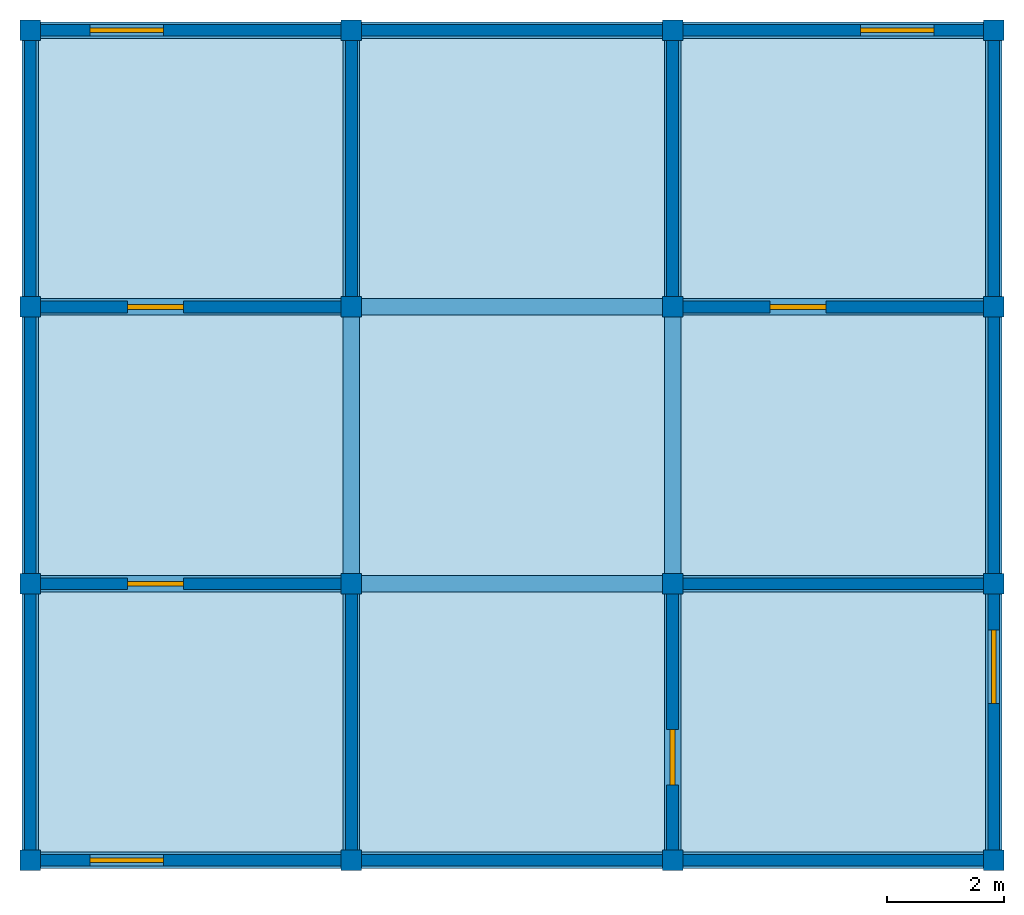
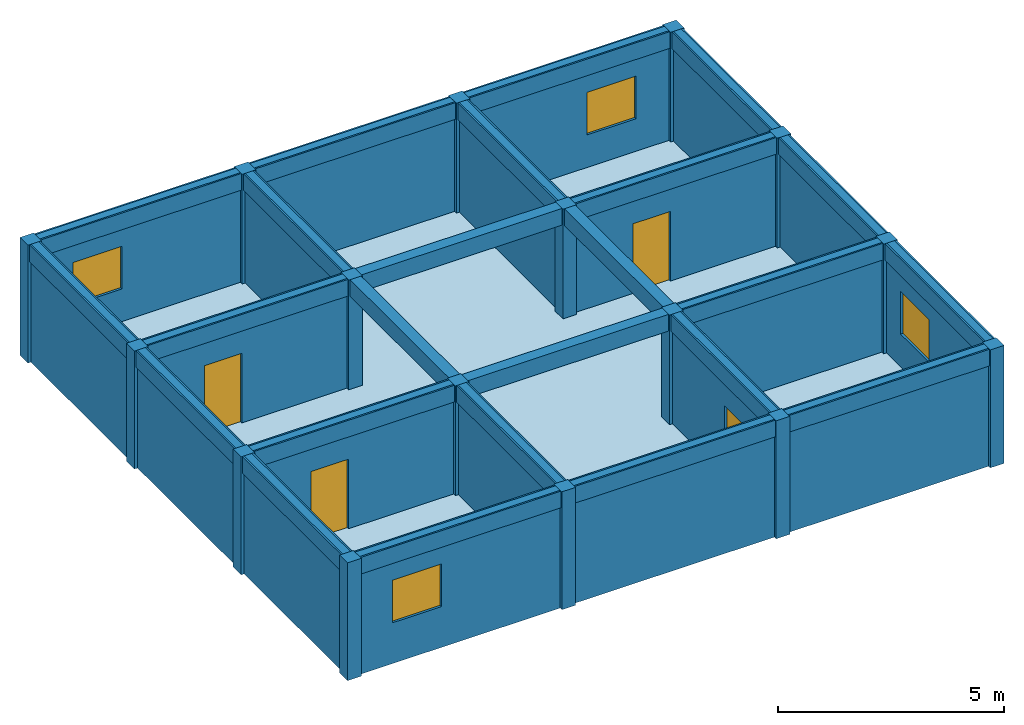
# One storey: 24 beams, 20 walls, 16 columns, 4 doors, 4 windows, 1 slab, 8 openings.
"""IFC4X3 building model written with IfcOpenShell, lengths in metres."""

from ifc_helpers import new_model, si_unit, frame, origin_with_axes, origin_2d, place, context, project, spatial, rectangle, extrude, material, element, fill, save


model = new_model("IFC4X3")

# Units and contexts
model_context = context("Model", 3, precision=1e-05, world=origin_with_axes())
ifc_project = project(units=[si_unit("LENGTHUNIT", "METRE"), si_unit("AREAUNIT", "SQUARE_METRE"), si_unit("VOLUMEUNIT", "CUBIC_METRE")], contexts=[model_context])

# Site, building, storey
site = spatial("IfcSite", under=ifc_project, Name="Antofagasta Parcel", CompositionType="ELEMENT")
building = spatial("IfcBuilding", under=site, Name="Nexo Block", CompositionType="ELEMENT")
storey = spatial("IfcBuildingStorey", under=building, Name="Level 11", CompositionType="ELEMENT", Elevation=31.81)

# Columns
ifc_material_1 = material(Name="Concrete")
column_1_placement = place(None, frame((-8.2, -7.065, 31.808), z_axis=(0.0, 0.0, 1.0), x_axis=(1.0, 0.0, 0.0)))
element("IfcColumn", 1, at=column_1_placement, inside=storey, material=ifc_material_1, Name="Column 11.1", ObjectType="Corner Column", PredefinedType="NOTDEFINED", context=model_context, shape_type="SweptSolid", body=[
    extrude(rectangle(XDim=0.35, YDim=0.35, at=origin_2d()), origin_with_axes(), (0.0, 0.0, 1.0), 3.181),
])
column_2_placement = place(None, frame((-8.2, -2.355, 31.808), z_axis=(0.0, 0.0, 1.0), x_axis=(1.0, 0.0, 0.0)))
element("IfcColumn", 2, at=column_2_placement, inside=storey, material=ifc_material_1, Name="Column 11.2", ObjectType="Structural Column", PredefinedType="COLUMN", context=model_context, shape_type="SweptSolid", body=[
    extrude(rectangle(XDim=0.35, YDim=0.35, at=origin_2d()), origin_with_axes(), (0.0, 0.0, 1.0), 3.181),
])
column_3_placement = place(None, frame((-8.2, 2.355, 31.808), z_axis=(0.0, 0.0, 1.0), x_axis=(1.0, 0.0, 0.0)))
element("IfcColumn", 3, at=column_3_placement, inside=storey, material=ifc_material_1, Name="Column 11.3", ObjectType="Structural Column", PredefinedType="PILASTER", context=model_context, shape_type="SweptSolid", body=[
    extrude(rectangle(XDim=0.35, YDim=0.35, at=origin_2d()), origin_with_axes(), (0.0, 0.0, 1.0), 3.181),
])
column_4_placement = place(None, frame((-8.2, 7.065, 31.808), z_axis=(0.0, 0.0, 1.0), x_axis=(1.0, 0.0, 0.0)))
element("IfcColumn", 4, at=column_4_placement, inside=storey, material=ifc_material_1, Name="Column 11.4", ObjectType="Core Column", PredefinedType="NOTDEFINED", context=model_context, shape_type="SweptSolid", body=[
    extrude(rectangle(XDim=0.35, YDim=0.35, at=origin_2d()), origin_with_axes(), (0.0, 0.0, 1.0), 3.181),
])
column_5_placement = place(None, frame((-2.733, -7.065, 31.808), z_axis=(0.0, 0.0, 1.0), x_axis=(1.0, 0.0, 0.0)))
element("IfcColumn", 5, at=column_5_placement, inside=storey, material=ifc_material_1, Name="Column 11.5", ObjectType="Facade Column", PredefinedType="PILASTER", context=model_context, shape_type="SweptSolid", body=[
    extrude(rectangle(XDim=0.35, YDim=0.35, at=origin_2d()), origin_with_axes(), (0.0, 0.0, 1.0), 3.181),
])
column_6_placement = place(None, frame((-2.733, -2.355, 31.808), z_axis=(0.0, 0.0, 1.0), x_axis=(1.0, 0.0, 0.0)))
element("IfcColumn", 6, at=column_6_placement, inside=storey, material=ifc_material_1, Name="Column 11.6", ObjectType="Core Column", PredefinedType="PILASTER", context=model_context, shape_type="SweptSolid", body=[
    extrude(rectangle(XDim=0.35, YDim=0.35, at=origin_2d()), origin_with_axes(), (0.0, 0.0, 1.0), 3.181),
])
column_7_placement = place(None, frame((-2.733, 2.355, 31.808), z_axis=(0.0, 0.0, 1.0), x_axis=(1.0, 0.0, 0.0)))
element("IfcColumn", 7, at=column_7_placement, inside=storey, material=ifc_material_1, Name="Column 11.7", ObjectType="Facade Column", PredefinedType="NOTDEFINED", context=model_context, shape_type="SweptSolid", body=[
    extrude(rectangle(XDim=0.35, YDim=0.35, at=origin_2d()), origin_with_axes(), (0.0, 0.0, 1.0), 3.181),
])
column_8_placement = place(None, frame((-2.733, 7.065, 31.808), z_axis=(0.0, 0.0, 1.0), x_axis=(1.0, 0.0, 0.0)))
element("IfcColumn", 8, at=column_8_placement, inside=storey, material=ifc_material_1, Name="Column 11.8", ObjectType="Facade Column", PredefinedType="PILASTER", context=model_context, shape_type="SweptSolid", body=[
    extrude(rectangle(XDim=0.35, YDim=0.35, at=origin_2d()), origin_with_axes(), (0.0, 0.0, 1.0), 3.181),
])
column_9_placement = place(None, frame((2.734, -7.065, 31.808), z_axis=(0.0, 0.0, 1.0), x_axis=(1.0, 0.0, 0.0)))
element("IfcColumn", 9, at=column_9_placement, inside=storey, material=ifc_material_1, Name="Column 11.9", ObjectType="Core Column", PredefinedType="COLUMN", context=model_context, shape_type="SweptSolid", body=[
    extrude(rectangle(XDim=0.35, YDim=0.35, at=origin_2d()), origin_with_axes(), (0.0, 0.0, 1.0), 3.181),
])
column_10_placement = place(None, frame((2.734, -2.355, 31.808), z_axis=(0.0, 0.0, 1.0), x_axis=(1.0, 0.0, 0.0)))
element("IfcColumn", 10, at=column_10_placement, inside=storey, material=ifc_material_1, Name="Column 11.10", ObjectType="Corner Column", PredefinedType="NOTDEFINED", context=model_context, shape_type="SweptSolid", body=[
    extrude(rectangle(XDim=0.35, YDim=0.35, at=origin_2d()), origin_with_axes(), (0.0, 0.0, 1.0), 3.181),
])
column_11_placement = place(None, frame((2.734, 2.355, 31.808), z_axis=(0.0, 0.0, 1.0), x_axis=(1.0, 0.0, 0.0)))
element("IfcColumn", 11, at=column_11_placement, inside=storey, material=ifc_material_1, Name="Column 11.11", ObjectType="Facade Column", PredefinedType="NOTDEFINED", context=model_context, shape_type="SweptSolid", body=[
    extrude(rectangle(XDim=0.35, YDim=0.35, at=origin_2d()), origin_with_axes(), (0.0, 0.0, 1.0), 3.181),
])
column_12_placement = place(None, frame((2.734, 7.065, 31.808), z_axis=(0.0, 0.0, 1.0), x_axis=(1.0, 0.0, 0.0)))
element("IfcColumn", 12, at=column_12_placement, inside=storey, material=ifc_material_1, Name="Column 11.12", ObjectType="Structural Column", PredefinedType="PILASTER", context=model_context, shape_type="SweptSolid", body=[
    extrude(rectangle(XDim=0.35, YDim=0.35, at=origin_2d()), origin_with_axes(), (0.0, 0.0, 1.0), 3.181),
])
column_13_placement = place(None, frame((8.201, -7.065, 31.808), z_axis=(0.0, 0.0, 1.0), x_axis=(1.0, 0.0, 0.0)))
element("IfcColumn", 13, at=column_13_placement, inside=storey, material=ifc_material_1, Name="Column 11.13", ObjectType="Facade Column", PredefinedType="PILASTER", context=model_context, shape_type="SweptSolid", body=[
    extrude(rectangle(XDim=0.35, YDim=0.35, at=origin_2d()), origin_with_axes(), (0.0, 0.0, 1.0), 3.181),
])
column_14_placement = place(None, frame((8.201, -2.355, 31.808), z_axis=(0.0, 0.0, 1.0), x_axis=(1.0, 0.0, 0.0)))
element("IfcColumn", 14, at=column_14_placement, inside=storey, material=ifc_material_1, Name="Column 11.14", ObjectType="Facade Column", PredefinedType="NOTDEFINED", context=model_context, shape_type="SweptSolid", body=[
    extrude(rectangle(XDim=0.35, YDim=0.35, at=origin_2d()), origin_with_axes(), (0.0, 0.0, 1.0), 3.181),
])
column_15_placement = place(None, frame((8.201, 2.355, 31.808), z_axis=(0.0, 0.0, 1.0), x_axis=(1.0, 0.0, 0.0)))
element("IfcColumn", 15, at=column_15_placement, inside=storey, material=ifc_material_1, Name="Column 11.15", ObjectType="Facade Column", PredefinedType="USERDEFINED", context=model_context, shape_type="SweptSolid", body=[
    extrude(rectangle(XDim=0.35, YDim=0.35, at=origin_2d()), origin_with_axes(), (0.0, 0.0, 1.0), 3.181),
])
column_16_placement = place(None, frame((8.201, 7.065, 31.808), z_axis=(0.0, 0.0, 1.0), x_axis=(1.0, 0.0, 0.0)))
element("IfcColumn", 16, at=column_16_placement, inside=storey, material=ifc_material_1, Name="Column 11.16", ObjectType="Structural Column", PredefinedType="PILASTER", context=model_context, shape_type="SweptSolid", body=[
    extrude(rectangle(XDim=0.35, YDim=0.35, at=origin_2d()), origin_with_axes(), (0.0, 0.0, 1.0), 3.181),
])

# Beams
ifc_material_2 = material(Name="Timber")
beam_1_placement = place(None, frame((-5.466, -7.065, 34.539), z_axis=(0.0, 0.0, 1.0), x_axis=(1.0, 0.0, 0.0)))
element("IfcBeam", 17, at=beam_1_placement, inside=storey, material=ifc_material_2, Name="Beam 11.1", ObjectType="Transfer Beam", PredefinedType="T_BEAM", context=model_context, shape_type="SweptSolid", body=[
    extrude(rectangle(XDim=5.467, YDim=0.28, at=origin_2d()), origin_with_axes(), (0.0, 0.0, 1.0), 0.45),
])
beam_2_placement = place(None, frame((0.0, -7.065, 34.539), z_axis=(0.0, 0.0, 1.0), x_axis=(1.0, 0.0, 0.0)))
element("IfcBeam", 18, at=beam_2_placement, inside=storey, material=ifc_material_2, Name="Beam 11.2", ObjectType="Transfer Beam", PredefinedType="BEAM", context=model_context, shape_type="SweptSolid", body=[
    extrude(rectangle(XDim=5.467, YDim=0.28, at=origin_2d()), origin_with_axes(), (0.0, 0.0, 1.0), 0.45),
])
beam_3_placement = place(None, frame((5.468, -7.065, 34.539), z_axis=(0.0, 0.0, 1.0), x_axis=(1.0, 0.0, 0.0)))
element("IfcBeam", 19, at=beam_3_placement, inside=storey, material=ifc_material_2, Name="Beam 11.3", ObjectType="Rafter Beam", PredefinedType="LINTEL", context=model_context, shape_type="SweptSolid", body=[
    extrude(rectangle(XDim=5.467, YDim=0.28, at=origin_2d()), origin_with_axes(), (0.0, 0.0, 1.0), 0.45),
])
beam_4_placement = place(None, frame((-5.466, -2.355, 34.539), z_axis=(0.0, 0.0, 1.0), x_axis=(1.0, 0.0, 0.0)))
element("IfcBeam", 20, at=beam_4_placement, inside=storey, material=ifc_material_2, Name="Beam 11.4", ObjectType="Secondary Beam", PredefinedType="HOLLOWCORE", context=model_context, shape_type="SweptSolid", body=[
    extrude(rectangle(XDim=5.467, YDim=0.28, at=origin_2d()), origin_with_axes(), (0.0, 0.0, 1.0), 0.45),
])
beam_5_placement = place(None, frame((0.0, -2.355, 34.539), z_axis=(0.0, 0.0, 1.0), x_axis=(1.0, 0.0, 0.0)))
element("IfcBeam", 21, at=beam_5_placement, inside=storey, material=ifc_material_2, Name="Beam 11.5", ObjectType="Ridge Beam", PredefinedType="LINTEL", context=model_context, shape_type="SweptSolid", body=[
    extrude(rectangle(XDim=5.467, YDim=0.28, at=origin_2d()), origin_with_axes(), (0.0, 0.0, 1.0), 0.45),
])
beam_6_placement = place(None, frame((5.468, -2.355, 34.539), z_axis=(0.0, 0.0, 1.0), x_axis=(1.0, 0.0, 0.0)))
element("IfcBeam", 22, at=beam_6_placement, inside=storey, material=ifc_material_2, Name="Beam 11.6", ObjectType="Transfer Beam", PredefinedType="LINTEL", context=model_context, shape_type="SweptSolid", body=[
    extrude(rectangle(XDim=5.467, YDim=0.28, at=origin_2d()), origin_with_axes(), (0.0, 0.0, 1.0), 0.45),
])
beam_7_placement = place(None, frame((-5.466, 2.355, 34.539), z_axis=(0.0, 0.0, 1.0), x_axis=(1.0, 0.0, 0.0)))
element("IfcBeam", 23, at=beam_7_placement, inside=storey, material=ifc_material_2, Name="Beam 11.7", ObjectType="Transfer Beam", PredefinedType="JOIST", context=model_context, shape_type="SweptSolid", body=[
    extrude(rectangle(XDim=5.467, YDim=0.28, at=origin_2d()), origin_with_axes(), (0.0, 0.0, 1.0), 0.45),
])
beam_8_placement = place(None, frame((0.0, 2.355, 34.539), z_axis=(0.0, 0.0, 1.0), x_axis=(1.0, 0.0, 0.0)))
element("IfcBeam", 24, at=beam_8_placement, inside=storey, material=ifc_material_2, Name="Beam 11.8", ObjectType="Rafter Beam", PredefinedType="LINTEL", context=model_context, shape_type="SweptSolid", body=[
    extrude(rectangle(XDim=5.467, YDim=0.28, at=origin_2d()), origin_with_axes(), (0.0, 0.0, 1.0), 0.45),
])
beam_9_placement = place(None, frame((5.468, 2.355, 34.539), z_axis=(0.0, 0.0, 1.0), x_axis=(1.0, 0.0, 0.0)))
element("IfcBeam", 25, at=beam_9_placement, inside=storey, material=ifc_material_2, Name="Beam 11.9", ObjectType="Primary Beam", PredefinedType="SPANDREL", context=model_context, shape_type="SweptSolid", body=[
    extrude(rectangle(XDim=5.467, YDim=0.28, at=origin_2d()), origin_with_axes(), (0.0, 0.0, 1.0), 0.45),
])
beam_10_placement = place(None, frame((-5.466, 7.065, 34.539), z_axis=(0.0, 0.0, 1.0), x_axis=(1.0, 0.0, 0.0)))
element("IfcBeam", 26, at=beam_10_placement, inside=storey, material=ifc_material_2, Name="Beam 11.10", ObjectType="Rafter Beam", PredefinedType="NOTDEFINED", context=model_context, shape_type="SweptSolid", body=[
    extrude(rectangle(XDim=5.467, YDim=0.28, at=origin_2d()), origin_with_axes(), (0.0, 0.0, 1.0), 0.45),
])
beam_11_placement = place(None, frame((0.0, 7.065, 34.539), z_axis=(0.0, 0.0, 1.0), x_axis=(1.0, 0.0, 0.0)))
element("IfcBeam", 27, at=beam_11_placement, inside=storey, material=ifc_material_2, Name="Beam 11.11", ObjectType="Primary Beam", PredefinedType="T_BEAM", context=model_context, shape_type="SweptSolid", body=[
    extrude(rectangle(XDim=5.467, YDim=0.28, at=origin_2d()), origin_with_axes(), (0.0, 0.0, 1.0), 0.45),
])
beam_12_placement = place(None, frame((5.468, 7.065, 34.539), z_axis=(0.0, 0.0, 1.0), x_axis=(1.0, 0.0, 0.0)))
element("IfcBeam", 28, at=beam_12_placement, inside=storey, material=ifc_material_2, Name="Beam 11.12", ObjectType="Secondary Beam", PredefinedType="SPANDREL", context=model_context, shape_type="SweptSolid", body=[
    extrude(rectangle(XDim=5.467, YDim=0.28, at=origin_2d()), origin_with_axes(), (0.0, 0.0, 1.0), 0.45),
])
beam_13_placement = place(None, frame((-8.2, -4.71, 34.539), z_axis=(0.0, 0.0, 1.0), x_axis=(0.0, 1.0, 0.0)))
element("IfcBeam", 29, at=beam_13_placement, inside=storey, material=ifc_material_2, Name="Beam 11.13", ObjectType="Primary Beam", PredefinedType="NOTDEFINED", context=model_context, shape_type="SweptSolid", body=[
    extrude(rectangle(XDim=4.71, YDim=0.28, at=origin_2d()), origin_with_axes(), (0.0, 0.0, 1.0), 0.45),
])
beam_14_placement = place(None, frame((-8.2, 0.0, 34.539), z_axis=(0.0, 0.0, 1.0), x_axis=(0.0, 1.0, 0.0)))
element("IfcBeam", 30, at=beam_14_placement, inside=storey, material=ifc_material_2, Name="Beam 11.14", ObjectType="Transfer Beam", PredefinedType="NOTDEFINED", context=model_context, shape_type="SweptSolid", body=[
    extrude(rectangle(XDim=4.71, YDim=0.28, at=origin_2d()), origin_with_axes(), (0.0, 0.0, 1.0), 0.45),
])
beam_15_placement = place(None, frame((-8.2, 4.71, 34.539), z_axis=(0.0, 0.0, 1.0), x_axis=(0.0, 1.0, 0.0)))
element("IfcBeam", 31, at=beam_15_placement, inside=storey, material=ifc_material_2, Name="Beam 11.15", ObjectType="Secondary Beam", PredefinedType="USERDEFINED", context=model_context, shape_type="SweptSolid", body=[
    extrude(rectangle(XDim=4.71, YDim=0.28, at=origin_2d()), origin_with_axes(), (0.0, 0.0, 1.0), 0.45),
])
beam_16_placement = place(None, frame((-2.733, -4.71, 34.539), z_axis=(0.0, 0.0, 1.0), x_axis=(0.0, 1.0, 0.0)))
element("IfcBeam", 32, at=beam_16_placement, inside=storey, material=ifc_material_2, Name="Beam 11.16", ObjectType="Primary Beam", PredefinedType="JOIST", context=model_context, shape_type="SweptSolid", body=[
    extrude(rectangle(XDim=4.71, YDim=0.28, at=origin_2d()), origin_with_axes(), (0.0, 0.0, 1.0), 0.45),
])
beam_17_placement = place(None, frame((-2.733, 0.0, 34.539), z_axis=(0.0, 0.0, 1.0), x_axis=(0.0, 1.0, 0.0)))
element("IfcBeam", 33, at=beam_17_placement, inside=storey, material=ifc_material_2, Name="Beam 11.17", ObjectType="Ridge Beam", PredefinedType="SPANDREL", context=model_context, shape_type="SweptSolid", body=[
    extrude(rectangle(XDim=4.71, YDim=0.28, at=origin_2d()), origin_with_axes(), (0.0, 0.0, 1.0), 0.45),
])
beam_18_placement = place(None, frame((-2.733, 4.71, 34.539), z_axis=(0.0, 0.0, 1.0), x_axis=(0.0, 1.0, 0.0)))
element("IfcBeam", 34, at=beam_18_placement, inside=storey, material=ifc_material_2, Name="Beam 11.18", ObjectType="Ridge Beam", PredefinedType="T_BEAM", context=model_context, shape_type="SweptSolid", body=[
    extrude(rectangle(XDim=4.71, YDim=0.28, at=origin_2d()), origin_with_axes(), (0.0, 0.0, 1.0), 0.45),
])
beam_19_placement = place(None, frame((2.734, -4.71, 34.539), z_axis=(0.0, 0.0, 1.0), x_axis=(0.0, 1.0, 0.0)))
element("IfcBeam", 35, at=beam_19_placement, inside=storey, material=ifc_material_2, Name="Beam 11.19", ObjectType="Rafter Beam", PredefinedType="LINTEL", context=model_context, shape_type="SweptSolid", body=[
    extrude(rectangle(XDim=4.71, YDim=0.28, at=origin_2d()), origin_with_axes(), (0.0, 0.0, 1.0), 0.45),
])
beam_20_placement = place(None, frame((2.734, 0.0, 34.539), z_axis=(0.0, 0.0, 1.0), x_axis=(0.0, 1.0, 0.0)))
element("IfcBeam", 36, at=beam_20_placement, inside=storey, material=ifc_material_2, Name="Beam 11.20", ObjectType="Rafter Beam", PredefinedType="BEAM", context=model_context, shape_type="SweptSolid", body=[
    extrude(rectangle(XDim=4.71, YDim=0.28, at=origin_2d()), origin_with_axes(), (0.0, 0.0, 1.0), 0.45),
])
beam_21_placement = place(None, frame((2.734, 4.71, 34.539), z_axis=(0.0, 0.0, 1.0), x_axis=(0.0, 1.0, 0.0)))
element("IfcBeam", 37, at=beam_21_placement, inside=storey, material=ifc_material_2, Name="Beam 11.21", ObjectType="Transfer Beam", PredefinedType="BEAM", context=model_context, shape_type="SweptSolid", body=[
    extrude(rectangle(XDim=4.71, YDim=0.28, at=origin_2d()), origin_with_axes(), (0.0, 0.0, 1.0), 0.45),
])
beam_22_placement = place(None, frame((8.201, -4.71, 34.539), z_axis=(0.0, 0.0, 1.0), x_axis=(0.0, 1.0, 0.0)))
element("IfcBeam", 38, at=beam_22_placement, inside=storey, material=ifc_material_2, Name="Beam 11.22", ObjectType="Secondary Beam", PredefinedType="NOTDEFINED", context=model_context, shape_type="SweptSolid", body=[
    extrude(rectangle(XDim=4.71, YDim=0.28, at=origin_2d()), origin_with_axes(), (0.0, 0.0, 1.0), 0.45),
])
beam_23_placement = place(None, frame((8.201, 0.0, 34.539), z_axis=(0.0, 0.0, 1.0), x_axis=(0.0, 1.0, 0.0)))
element("IfcBeam", 39, at=beam_23_placement, inside=storey, material=ifc_material_2, Name="Beam 11.23", ObjectType="Ridge Beam", PredefinedType="SPANDREL", context=model_context, shape_type="SweptSolid", body=[
    extrude(rectangle(XDim=4.71, YDim=0.28, at=origin_2d()), origin_with_axes(), (0.0, 0.0, 1.0), 0.45),
])
beam_24_placement = place(None, frame((8.201, 4.71, 34.539), z_axis=(0.0, 0.0, 1.0), x_axis=(0.0, 1.0, 0.0)))
element("IfcBeam", 40, at=beam_24_placement, inside=storey, material=ifc_material_2, Name="Beam 11.24", ObjectType="Rafter Beam", PredefinedType="BEAM", context=model_context, shape_type="SweptSolid", body=[
    extrude(rectangle(XDim=4.71, YDim=0.28, at=origin_2d()), origin_with_axes(), (0.0, 0.0, 1.0), 0.45),
])

# Slab
slab_placement = place(None, frame((0.0, 0.0, 31.81), z_axis=(0.0, 0.0, 1.0), x_axis=(1.0, 0.0, 0.0)))
element("IfcSlab", 41, at=slab_placement, inside=storey, material=ifc_material_1, Name="Slab 11", ObjectType="Floor Slab", PredefinedType="FLOOR", context=model_context, shape_type="SweptSolid", body=[
    extrude(rectangle(XDim=16.4, YDim=14.13, at=origin_2d()), origin_with_axes(), (0.0, 0.0, 1.0), 0.22),
])

# Wall, opening, door
wall_1_placement = place(None, frame((-5.466, -2.355, 31.808), z_axis=(0.0, 0.0, 1.0), x_axis=(1.0, 0.0, 0.0)))
wall_1 = element("IfcWall", 42, at=wall_1_placement, inside=storey, material=ifc_material_1, Name="Wall 11.1", ObjectType="Corridor Partition", PredefinedType="SOLIDWALL", context=model_context, shape_type="SweptSolid", body=[
    extrude(rectangle(XDim=5.467, YDim=0.198651, at=origin_2d()), origin_with_axes(), (0.0, 0.0, 1.0), 3.181),
])
opening_1_placement = place(None, frame((-6.066, -2.355, 31.808), z_axis=(0.0, 0.0, 1.0), x_axis=(1.0, 0.0, 0.0)))
opening_1 = element("IfcOpeningElement", 43, at=opening_1_placement, cuts=wall_1, Name="Door opening 11.1", ObjectType="Door Opening", PredefinedType="OPENING", context=model_context, shape_type="SweptSolid", body=[
    extrude(rectangle(XDim=0.95, YDim=0.278651, at=origin_2d()), origin_with_axes(), (0.0, 0.0, 1.0), 2.1),
])
door_1_placement = place(None, frame((-6.066, -2.355, 31.808), z_axis=(0.0, 0.0, 1.0), x_axis=(1.0, 0.0, 0.0)))
door_1 = element("IfcDoor", 44, at=door_1_placement, inside=storey, Name="Door 11.1", ObjectType="Entry Door", OverallHeight=2.1, OverallWidth=0.95, context=model_context, shape_type="SweptSolid", body=[
    extrude(rectangle(XDim=0.95, YDim=0.08, at=origin_2d()), origin_with_axes(), (0.0, 0.0, 1.0), 2.1),
])
fill(opening_1, door_1)

# Wall
wall_2_placement = place(None, frame((-2.7325, -4.71, 31.808), z_axis=(0.0, 0.0, 1.0), x_axis=(0.0, 1.0, 0.0)))
element("IfcWall", 45, at=wall_2_placement, inside=storey, material=ifc_material_1, Name="Wall 11.2", ObjectType="Corridor Partition", PredefinedType="POLYGONAL", context=model_context, shape_type="SweptSolid", body=[
    extrude(rectangle(XDim=4.71, YDim=0.198651, at=origin_2d()), origin_with_axes(), (0.0, 0.0, 1.0), 3.181),
])

# Wall, opening, window
ifc_material_3 = material(Name="CLT")
wall_3_placement = place(None, frame((-5.466, -7.065, 31.808), z_axis=(0.0, 0.0, 1.0), x_axis=(1.0, 0.0, 0.0)))
wall_3 = element("IfcWall", 46, at=wall_3_placement, inside=storey, material=ifc_material_3, Name="Wall 11.3", ObjectType="Exterior Wall", PredefinedType="STANDARD", context=model_context, shape_type="SweptSolid", body=[
    extrude(rectangle(XDim=5.467, YDim=0.198651, at=origin_2d()), origin_with_axes(), (0.0, 0.0, 1.0), 3.181),
])
opening_2_placement = place(None, frame((-6.559, -7.065, 32.908), z_axis=(0.0, 0.0, 1.0), x_axis=(1.0, 0.0, 0.0)))
opening_2 = element("IfcOpeningElement", 47, at=opening_2_placement, cuts=wall_3, Name="Window opening 11.2", ObjectType="Window Opening", PredefinedType="OPENING", context=model_context, shape_type="SweptSolid", body=[
    extrude(rectangle(XDim=1.25, YDim=0.278651, at=origin_2d()), origin_with_axes(), (0.0, 0.0, 1.0), 1.15),
])
window_1_placement = place(None, frame((-6.559, -7.065, 32.908), z_axis=(0.0, 0.0, 1.0), x_axis=(1.0, 0.0, 0.0)))
window_1 = element("IfcWindow", 48, at=window_1_placement, inside=storey, Name="Window 11.2", ObjectType="Fixed Window", OverallHeight=1.15, OverallWidth=1.25, context=model_context, shape_type="SweptSolid", body=[
    extrude(rectangle(XDim=1.25, YDim=0.08, at=origin_2d()), origin_with_axes(), (0.0, 0.0, 1.0), 1.15),
])
fill(opening_2, window_1)

# Wall
wall_4_placement = place(None, frame((-8.1995, -4.71, 31.808), z_axis=(0.0, 0.0, 1.0), x_axis=(0.0, 1.0, 0.0)))
element("IfcWall", 49, at=wall_4_placement, inside=storey, material=ifc_material_1, Name="Wall 11.4", ObjectType="Exterior Wall", PredefinedType="PLUMBINGWALL", context=model_context, shape_type="SweptSolid", body=[
    extrude(rectangle(XDim=4.71, YDim=0.198651, at=origin_2d()), origin_with_axes(), (0.0, 0.0, 1.0), 3.181),
])

# Wall, opening, door
wall_5_placement = place(None, frame((2.7335, -4.71, 31.808), z_axis=(0.0, 0.0, 1.0), x_axis=(0.0, 1.0, 0.0)))
wall_5 = element("IfcWall", 50, at=wall_5_placement, inside=storey, material=ifc_material_3, Name="Wall 11.5", ObjectType="Corridor Partition", PredefinedType="PARTITIONING", context=model_context, shape_type="SweptSolid", body=[
    extrude(rectangle(XDim=4.71, YDim=0.198651, at=origin_2d()), origin_with_axes(), (0.0, 0.0, 1.0), 3.181),
])
opening_3_placement = place(None, frame((2.733, -5.31, 31.808), z_axis=(0.0, 0.0, 1.0), x_axis=(0.0, 1.0, 0.0)))
opening_3 = element("IfcOpeningElement", 51, at=opening_3_placement, cuts=wall_5, Name="Door opening 11.3", ObjectType="Door Opening", PredefinedType="OPENING", context=model_context, shape_type="SweptSolid", body=[
    extrude(rectangle(XDim=0.95, YDim=0.278651, at=origin_2d()), origin_with_axes(), (0.0, 0.0, 1.0), 2.1),
])
door_2_placement = place(None, frame((2.733, -5.31, 31.808), z_axis=(0.0, 0.0, 1.0), x_axis=(0.0, 1.0, 0.0)))
door_2 = element("IfcDoor", 52, at=door_2_placement, inside=storey, Name="Door 11.3", ObjectType="Interior Door", OverallHeight=2.1, OverallWidth=0.95, context=model_context, shape_type="SweptSolid", body=[
    extrude(rectangle(XDim=0.95, YDim=0.08, at=origin_2d()), origin_with_axes(), (0.0, 0.0, 1.0), 2.1),
])
fill(opening_3, door_2)

# Walls
ifc_material_4 = material(Name="Brick")
wall_6_placement = place(None, frame((0.0, -7.065, 31.808), z_axis=(0.0, 0.0, 1.0), x_axis=(1.0, 0.0, 0.0)))
element("IfcWall", 53, at=wall_6_placement, inside=storey, material=ifc_material_4, Name="Wall 11.6", ObjectType="Exterior Wall", PredefinedType="MOVABLE", context=model_context, shape_type="SweptSolid", body=[
    extrude(rectangle(XDim=5.467, YDim=0.198651, at=origin_2d()), origin_with_axes(), (0.0, 0.0, 1.0), 3.181),
])
wall_7_placement = place(None, frame((5.467, -2.355, 31.808), z_axis=(0.0, 0.0, 1.0), x_axis=(1.0, 0.0, 0.0)))
element("IfcWall", 54, at=wall_7_placement, inside=storey, material=ifc_material_1, Name="Wall 11.7", ObjectType="Corridor Partition", PredefinedType="ELEMENTEDWALL", context=model_context, shape_type="SweptSolid", body=[
    extrude(rectangle(XDim=5.467, YDim=0.198651, at=origin_2d()), origin_with_axes(), (0.0, 0.0, 1.0), 3.181),
])

# Wall, opening, window
wall_8_placement = place(None, frame((8.2005, -4.71, 31.808), z_axis=(0.0, 0.0, 1.0), x_axis=(0.0, 1.0, 0.0)))
wall_8 = element("IfcWall", 55, at=wall_8_placement, inside=storey, material=ifc_material_3, Name="Wall 11.8", ObjectType="Exterior Wall", PredefinedType="ELEMENTEDWALL", context=model_context, shape_type="SweptSolid", body=[
    extrude(rectangle(XDim=4.71, YDim=0.198651, at=origin_2d()), origin_with_axes(), (0.0, 0.0, 1.0), 3.181),
])
opening_4_placement = place(None, frame((8.2, -3.768, 32.908), z_axis=(0.0, 0.0, 1.0), x_axis=(0.0, 1.0, 0.0)))
opening_4 = element("IfcOpeningElement", 56, at=opening_4_placement, cuts=wall_8, Name="Window opening 11.4", ObjectType="Window Opening", PredefinedType="OPENING", context=model_context, shape_type="SweptSolid", body=[
    extrude(rectangle(XDim=1.25, YDim=0.278651, at=origin_2d()), origin_with_axes(), (0.0, 0.0, 1.0), 1.15),
])
window_2_placement = place(None, frame((8.2, -3.768, 32.908), z_axis=(0.0, 0.0, 1.0), x_axis=(0.0, 1.0, 0.0)))
window_2 = element("IfcWindow", 57, at=window_2_placement, inside=storey, Name="Window 11.4", ObjectType="Louvre Window", OverallHeight=1.15, OverallWidth=1.25, context=model_context, shape_type="SweptSolid", body=[
    extrude(rectangle(XDim=1.25, YDim=0.08, at=origin_2d()), origin_with_axes(), (0.0, 0.0, 1.0), 1.15),
])
fill(opening_4, window_2)

# Wall
wall_9_placement = place(None, frame((5.467, -7.065, 31.808), z_axis=(0.0, 0.0, 1.0), x_axis=(1.0, 0.0, 0.0)))
element("IfcWall", 58, at=wall_9_placement, inside=storey, material=ifc_material_3, Name="Wall 11.9", ObjectType="Exterior Wall", PredefinedType="NOTDEFINED", context=model_context, shape_type="SweptSolid", body=[
    extrude(rectangle(XDim=5.467, YDim=0.198651, at=origin_2d()), origin_with_axes(), (0.0, 0.0, 1.0), 3.181),
])

# Wall, opening, door
wall_10_placement = place(None, frame((-5.466, 2.355, 31.808), z_axis=(0.0, 0.0, 1.0), x_axis=(1.0, 0.0, 0.0)))
wall_10 = element("IfcWall", 59, at=wall_10_placement, inside=storey, material=ifc_material_1, Name="Wall 11.10", ObjectType="Corridor Partition", PredefinedType="SOLIDWALL", context=model_context, shape_type="SweptSolid", body=[
    extrude(rectangle(XDim=5.467, YDim=0.198651, at=origin_2d()), origin_with_axes(), (0.0, 0.0, 1.0), 3.181),
])
opening_5_placement = place(None, frame((-6.066, 2.355, 31.808), z_axis=(0.0, 0.0, 1.0), x_axis=(1.0, 0.0, 0.0)))
opening_5 = element("IfcOpeningElement", 60, at=opening_5_placement, cuts=wall_10, Name="Door opening 11.5", ObjectType="Door Opening", PredefinedType="OPENING", context=model_context, shape_type="SweptSolid", body=[
    extrude(rectangle(XDim=0.95, YDim=0.278651, at=origin_2d()), origin_with_axes(), (0.0, 0.0, 1.0), 2.1),
])
door_3_placement = place(None, frame((-6.066, 2.355, 31.808), z_axis=(0.0, 0.0, 1.0), x_axis=(1.0, 0.0, 0.0)))
door_3 = element("IfcDoor", 61, at=door_3_placement, inside=storey, Name="Door 11.5", ObjectType="Interior Door", OverallHeight=2.1, OverallWidth=0.95, context=model_context, shape_type="SweptSolid", body=[
    extrude(rectangle(XDim=0.95, YDim=0.08, at=origin_2d()), origin_with_axes(), (0.0, 0.0, 1.0), 2.1),
])
fill(opening_5, door_3)

# Wall
wall_11_placement = place(None, frame((-8.1995, 0.0, 31.808), z_axis=(0.0, 0.0, 1.0), x_axis=(0.0, 1.0, 0.0)))
element("IfcWall", 62, at=wall_11_placement, inside=storey, material=ifc_material_4, Name="Wall 11.11", ObjectType="Exterior Wall", PredefinedType="SHEAR", context=model_context, shape_type="SweptSolid", body=[
    extrude(rectangle(XDim=4.71, YDim=0.198651, at=origin_2d()), origin_with_axes(), (0.0, 0.0, 1.0), 3.181),
])

# Wall, opening, door
wall_12_placement = place(None, frame((5.467, 2.355, 31.808), z_axis=(0.0, 0.0, 1.0), x_axis=(1.0, 0.0, 0.0)))
wall_12 = element("IfcWall", 63, at=wall_12_placement, inside=storey, material=ifc_material_4, Name="Wall 11.12", ObjectType="Corridor Partition", PredefinedType="POLYGONAL", context=model_context, shape_type="SweptSolid", body=[
    extrude(rectangle(XDim=5.467, YDim=0.198651, at=origin_2d()), origin_with_axes(), (0.0, 0.0, 1.0), 3.181),
])
opening_6_placement = place(None, frame((4.867, 2.355, 31.808), z_axis=(0.0, 0.0, 1.0), x_axis=(1.0, 0.0, 0.0)))
opening_6 = element("IfcOpeningElement", 64, at=opening_6_placement, cuts=wall_12, Name="Door opening 11.7", ObjectType="Door Opening", PredefinedType="OPENING", context=model_context, shape_type="SweptSolid", body=[
    extrude(rectangle(XDim=0.95, YDim=0.278651, at=origin_2d()), origin_with_axes(), (0.0, 0.0, 1.0), 2.1),
])
door_4_placement = place(None, frame((4.867, 2.355, 31.808), z_axis=(0.0, 0.0, 1.0), x_axis=(1.0, 0.0, 0.0)))
door_4 = element("IfcDoor", 65, at=door_4_placement, inside=storey, Name="Door 11.7", ObjectType="Entry Door", OverallHeight=2.1, OverallWidth=0.95, context=model_context, shape_type="SweptSolid", body=[
    extrude(rectangle(XDim=0.95, YDim=0.08, at=origin_2d()), origin_with_axes(), (0.0, 0.0, 1.0), 2.1),
])
fill(opening_6, door_4)

# Wall
wall_13_placement = place(None, frame((8.2005, 0.0, 31.808), z_axis=(0.0, 0.0, 1.0), x_axis=(0.0, 1.0, 0.0)))
element("IfcWall", 66, at=wall_13_placement, inside=storey, material=ifc_material_3, Name="Wall 11.13", ObjectType="Exterior Wall", PredefinedType="SHEAR", context=model_context, shape_type="SweptSolid", body=[
    extrude(rectangle(XDim=4.71, YDim=0.198651, at=origin_2d()), origin_with_axes(), (0.0, 0.0, 1.0), 3.181),
])

# Wall, opening, window
wall_14_placement = place(None, frame((-5.466, 7.065, 31.808), z_axis=(0.0, 0.0, 1.0), x_axis=(1.0, 0.0, 0.0)))
wall_14 = element("IfcWall", 67, at=wall_14_placement, inside=storey, material=ifc_material_3, Name="Wall 11.14", ObjectType="Exterior Wall", PredefinedType="USERDEFINED", context=model_context, shape_type="SweptSolid", body=[
    extrude(rectangle(XDim=5.467, YDim=0.198651, at=origin_2d()), origin_with_axes(), (0.0, 0.0, 1.0), 3.181),
])
opening_7_placement = place(None, frame((-6.559, 7.065, 32.908), z_axis=(0.0, 0.0, 1.0), x_axis=(1.0, 0.0, 0.0)))
opening_7 = element("IfcOpeningElement", 68, at=opening_7_placement, cuts=wall_14, Name="Window opening 11.6", ObjectType="Window Opening", PredefinedType="OPENING", context=model_context, shape_type="SweptSolid", body=[
    extrude(rectangle(XDim=1.25, YDim=0.278651, at=origin_2d()), origin_with_axes(), (0.0, 0.0, 1.0), 1.15),
])
window_3_placement = place(None, frame((-6.559, 7.065, 32.908), z_axis=(0.0, 0.0, 1.0), x_axis=(1.0, 0.0, 0.0)))
window_3 = element("IfcWindow", 69, at=window_3_placement, inside=storey, Name="Window 11.6", ObjectType="Sliding Window", OverallHeight=1.15, OverallWidth=1.25, context=model_context, shape_type="SweptSolid", body=[
    extrude(rectangle(XDim=1.25, YDim=0.08, at=origin_2d()), origin_with_axes(), (0.0, 0.0, 1.0), 1.15),
])
fill(opening_7, window_3)

# Walls
ifc_material_5 = material(Name="Gypsum")
wall_15_placement = place(None, frame((-2.7325, 4.71, 31.808), z_axis=(0.0, 0.0, 1.0), x_axis=(0.0, 1.0, 0.0)))
element("IfcWall", 70, at=wall_15_placement, inside=storey, material=ifc_material_5, Name="Wall 11.15", ObjectType="Corridor Partition", PredefinedType="POLYGONAL", context=model_context, shape_type="SweptSolid", body=[
    extrude(rectangle(XDim=4.71, YDim=0.198651, at=origin_2d()), origin_with_axes(), (0.0, 0.0, 1.0), 3.181),
])
wall_16_placement = place(None, frame((-8.1995, 4.71, 31.808), z_axis=(0.0, 0.0, 1.0), x_axis=(0.0, 1.0, 0.0)))
element("IfcWall", 71, at=wall_16_placement, inside=storey, material=ifc_material_3, Name="Wall 11.16", ObjectType="Exterior Wall", PredefinedType="POLYGONAL", context=model_context, shape_type="SweptSolid", body=[
    extrude(rectangle(XDim=4.71, YDim=0.198651, at=origin_2d()), origin_with_axes(), (0.0, 0.0, 1.0), 3.181),
])
wall_17_placement = place(None, frame((0.0, 7.065, 31.808), z_axis=(0.0, 0.0, 1.0), x_axis=(1.0, 0.0, 0.0)))
element("IfcWall", 72, at=wall_17_placement, inside=storey, material=ifc_material_3, Name="Wall 11.17", ObjectType="Exterior Wall", PredefinedType="PARAPET", context=model_context, shape_type="SweptSolid", body=[
    extrude(rectangle(XDim=5.467, YDim=0.198651, at=origin_2d()), origin_with_axes(), (0.0, 0.0, 1.0), 3.181),
])
wall_18_placement = place(None, frame((2.7335, 4.71, 31.808), z_axis=(0.0, 0.0, 1.0), x_axis=(0.0, 1.0, 0.0)))
element("IfcWall", 73, at=wall_18_placement, inside=storey, material=ifc_material_4, Name="Wall 11.18", ObjectType="Corridor Partition", PredefinedType="SHEAR", context=model_context, shape_type="SweptSolid", body=[
    extrude(rectangle(XDim=4.71, YDim=0.198651, at=origin_2d()), origin_with_axes(), (0.0, 0.0, 1.0), 3.181),
])

# Wall, opening, window
wall_19_placement = place(None, frame((5.467, 7.065, 31.808), z_axis=(0.0, 0.0, 1.0), x_axis=(1.0, 0.0, 0.0)))
wall_19 = element("IfcWall", 74, at=wall_19_placement, inside=storey, material=ifc_material_4, Name="Wall 11.19", ObjectType="Exterior Wall", PredefinedType="NOTDEFINED", context=model_context, shape_type="SweptSolid", body=[
    extrude(rectangle(XDim=5.467, YDim=0.198651, at=origin_2d()), origin_with_axes(), (0.0, 0.0, 1.0), 3.181),
])
opening_8_placement = place(None, frame((6.56, 7.065, 32.908), z_axis=(0.0, 0.0, 1.0), x_axis=(1.0, 0.0, 0.0)))
opening_8 = element("IfcOpeningElement", 75, at=opening_8_placement, cuts=wall_19, Name="Window opening 11.8", ObjectType="Window Opening", PredefinedType="OPENING", context=model_context, shape_type="SweptSolid", body=[
    extrude(rectangle(XDim=1.25, YDim=0.278651, at=origin_2d()), origin_with_axes(), (0.0, 0.0, 1.0), 1.15),
])
window_4_placement = place(None, frame((6.56, 7.065, 32.908), z_axis=(0.0, 0.0, 1.0), x_axis=(1.0, 0.0, 0.0)))
window_4 = element("IfcWindow", 76, at=window_4_placement, inside=storey, Name="Window 11.8", ObjectType="Curtain Window", OverallHeight=1.15, OverallWidth=1.25, context=model_context, shape_type="SweptSolid", body=[
    extrude(rectangle(XDim=1.25, YDim=0.08, at=origin_2d()), origin_with_axes(), (0.0, 0.0, 1.0), 1.15),
])
fill(opening_8, window_4)

# Wall
wall_20_placement = place(None, frame((8.2005, 4.71, 31.808), z_axis=(0.0, 0.0, 1.0), x_axis=(0.0, 1.0, 0.0)))
element("IfcWall", 77, at=wall_20_placement, inside=storey, material=ifc_material_4, Name="Wall 11.20", ObjectType="Exterior Wall", PredefinedType="ELEMENTEDWALL", context=model_context, shape_type="SweptSolid", body=[
    extrude(rectangle(XDim=4.71, YDim=0.198651, at=origin_2d()), origin_with_axes(), (0.0, 0.0, 1.0), 3.181),
])

save(model, "model.ifc")
